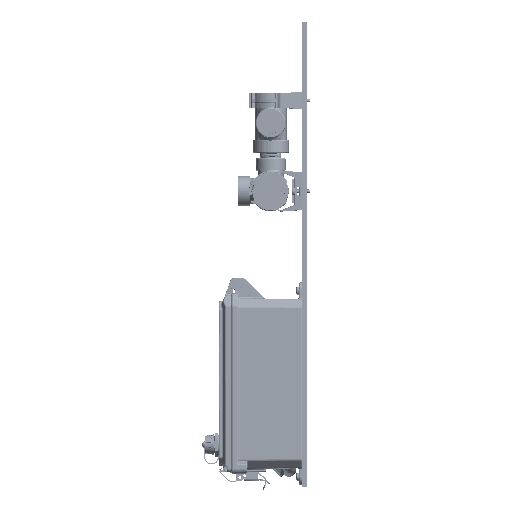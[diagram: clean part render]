
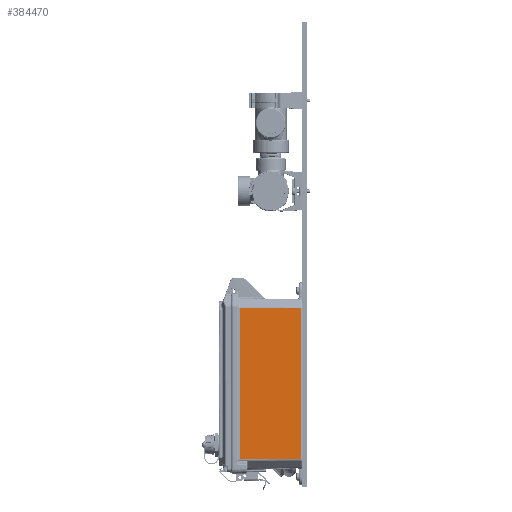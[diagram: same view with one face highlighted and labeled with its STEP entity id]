
A CAD part, top view. The second image highlights one B-rep face of the part: STEP entity #384470.
In plain terms, the highlighted planar face has unit normal (0.018, 0, 1) as drawn and (-0.017, 0, 1) by its records, which use the part's own axes.
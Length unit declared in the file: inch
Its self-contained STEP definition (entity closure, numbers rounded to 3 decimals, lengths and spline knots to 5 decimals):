
#50 = LINE ( 'NONE', #150655, #136220 ) ;
#848 = DIRECTION ( 'NONE',  ( 1., 0., 0.017 ) ) ;
#19627 = LINE ( 'NONE', #170276, #139186 ) ;
#37872 = PLANE ( 'NONE',  #464647 ) ;
#43409 = LINE ( 'NONE', #194123, #207840 ) ;
#47043 = LINE ( 'NONE', #197750, #81734 ) ;
#81734 = VECTOR ( 'NONE', #348415, 39.37008 ) ;
#103421 = CARTESIAN_POINT ( 'NONE',  ( -3.18613, 3.63538, 3.08939 ) ) ;
#129100 = EDGE_CURVE ( 'NONE', #176251, #273342, #43409, .T. ) ;
#136220 = VECTOR ( 'NONE', #301379, 39.37008 ) ;
#136393 = ORIENTED_EDGE ( 'NONE', *, *, #355000, .T. ) ;
#139186 = VECTOR ( 'NONE', #320985, 39.37008 ) ;
#150655 = CARTESIAN_POINT ( 'NONE',  ( 4.67159, 3.69219, 3.22654 ) ) ;
#152888 = CARTESIAN_POINT ( 'NONE',  ( -0.21878, 3.65683, 3.14118 ) ) ;
#170276 = CARTESIAN_POINT ( 'NONE',  ( -3.18613, -3.63538, 3.08939 ) ) ;
#170377 = EDGE_CURVE ( 'NONE', #273342, #483671, #50, .T. ) ;
#176251 = VERTEX_POINT ( 'NONE', #412080 ) ;
#188550 = CARTESIAN_POINT ( 'NONE',  ( 0., 4.85633, 3.145 ) ) ;
#194123 = CARTESIAN_POINT ( 'NONE',  ( -3.18613, 3.67756, 3.08939 ) ) ;
#197750 = CARTESIAN_POINT ( 'NONE',  ( -0.21878, 4.85633, 3.14118 ) ) ;
#207840 = VECTOR ( 'NONE', #344766, 39.37008 ) ;
#269923 = ORIENTED_EDGE ( 'NONE', *, *, #129100, .F. ) ;
#273342 = VERTEX_POINT ( 'NONE', #103421 ) ;
#286519 = EDGE_CURVE ( 'NONE', #176251, #379480, #19627, .T. ) ;
#301379 = DIRECTION ( 'NONE',  ( 1., 0.007, 0.017 ) ) ;
#305012 = EDGE_LOOP ( 'NONE', ( #383421, #136393, #340990, #269923 ) ) ;
#320985 = DIRECTION ( 'NONE',  ( 1., -0.007, 0.017 ) ) ;
#339223 = DIRECTION ( 'NONE',  ( -0.017, 0., 1. ) ) ;
#340990 = ORIENTED_EDGE ( 'NONE', *, *, #170377, .F. ) ;
#344766 = DIRECTION ( 'NONE',  ( 0., 1., 0. ) ) ;
#346355 = CARTESIAN_POINT ( 'NONE',  ( -0.21878, -3.65683, 3.14118 ) ) ;
#348415 = DIRECTION ( 'NONE',  ( 0., 1., 0. ) ) ;
#355000 = EDGE_CURVE ( 'NONE', #379480, #483671, #47043, .T. ) ;
#376319 = FACE_OUTER_BOUND ( 'NONE', #305012, .T. ) ;
#379480 = VERTEX_POINT ( 'NONE', #346355 ) ;
#383421 = ORIENTED_EDGE ( 'NONE', *, *, #286519, .T. ) ;
#384470 = ADVANCED_FACE ( 'NONE', ( #376319 ), #37872, .T. ) ;
#412080 = CARTESIAN_POINT ( 'NONE',  ( -3.18613, -3.63538, 3.08939 ) ) ;
#464647 = AXIS2_PLACEMENT_3D ( 'NONE', #188550, #339223, #848 ) ;
#483671 = VERTEX_POINT ( 'NONE', #152888 ) ;
